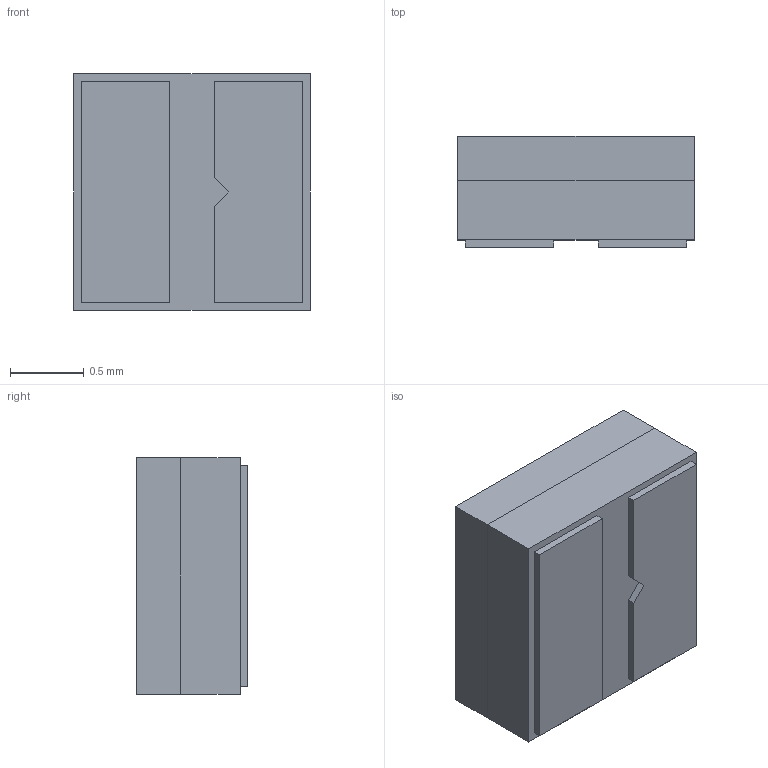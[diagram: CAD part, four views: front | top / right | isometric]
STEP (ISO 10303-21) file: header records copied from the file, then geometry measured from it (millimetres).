
FILE_DESCRIPTION (( 'STEP AP203' ), '1' );
FILE_NAME ('KA.STEP', '2024-01-19T02:23:05', ( '' ), ( '' ), 'SwSTEP 2.0', 'SolidWorks 2016', '' );
FILE_SCHEMA (( 'CONFIG_CONTROL_DESIGN' ));
Length unit declared in the file: millimetre
Products named in the file (1): KA
Bounding box: 1.6 x 0.75 x 1.6 mm (x, y, z)
Volume: 1.9 mm3; surface area: 18 mm2
Topology: 3 solids, 3 shells, 35 faces, 81 edges, 54 vertices
Faces by surface type: plane 35
Entity records: 1052 total; most frequent: CARTESIAN_POINT 171, ORIENTED_EDGE 162, DIRECTION 153, EDGE_CURVE 81, VECTOR 81, LINE 81, VERTEX_POINT 54, EDGE_LOOP 39
